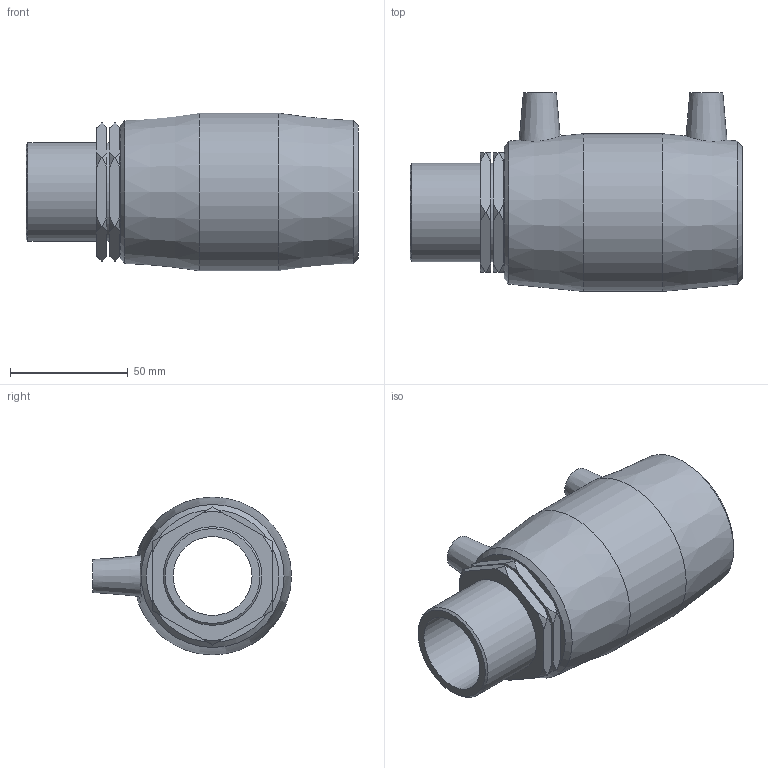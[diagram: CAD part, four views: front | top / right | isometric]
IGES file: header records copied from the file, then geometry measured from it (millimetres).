
Global section: file name: 497104050015.ipt; native system: Autodesk Inventor 2015; preprocessor: unknown; author: KIM; date: 20171106.094429; units: millimetre
Bounding box: 141 x 84.5 x 67 mm (x, y, z)
Volume: 207959.2 mm3; surface area: 55622 mm2
Topology: 1 solids, 2 shells, 75 faces, 186 edges, 126 vertices
Faces by surface type: cone 31, plane 29, revolution 8, cylinder 7
Full cylindrical faces by diameter (mm): 4 x2, 41.91 x2, 50 x2, 67 x1
